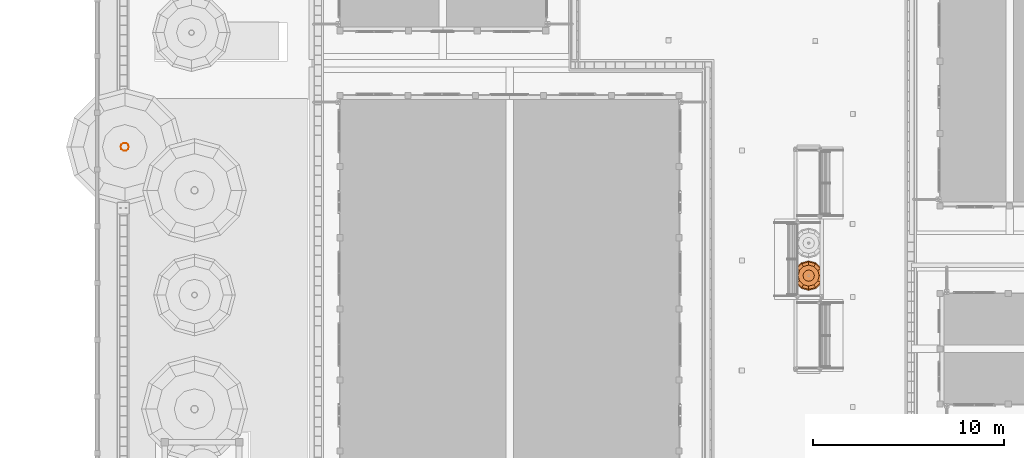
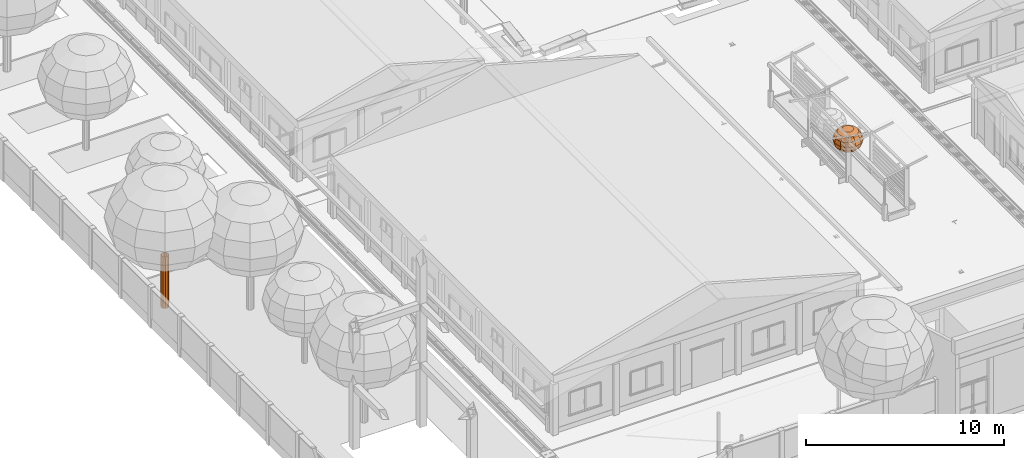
# One storey, part 150 of 166: 2 proxies.
"""IFC2X3 building model written with IfcOpenShell, lengths in metres."""

import ifcopenshell
import ifcopenshell.guid

model = None  # the IFC model being written
_history = None  # IfcOwnerHistory: only IFC2X3 demands one
_inside = {}  # id of a spatial element -> (the spatial element, [elements in it])
_under = {}  # id of a project, library or spatial element -> (it, [spatial elements below it])
_declared = {}  # id of a project -> (the project, [libraries it declares])
_typed = {}  # id of a type object -> (the type object, [elements of that type])
_made_of = {}  # id of a material, layer set ... -> (it, [elements and type objects made of it])


def new_model(schema):
    """Start an empty IFC model of exactly this schema.

    Asked for "IFC4X3", IfcOpenShell would pick the latest addendum, in which some entities
    have other attributes; the version numbers below select the first issue.
    IFC2X3 requires an IfcOwnerHistory on every rooted entity: one is made here for all.
    """
    global model, _history
    if schema == "IFC4X3":
        model = ifcopenshell.file(schema_version=(4, 3, 0, 0))
    else:
        model = ifcopenshell.file(schema=schema)
    _inside.clear()
    _under.clear()
    _declared.clear()
    _typed.clear()
    _made_of.clear()
    _history = None
    if model.schema == "IFC2X3":
        org = make("IfcOrganization", Name="unknown")
        user = make(
            "IfcPersonAndOrganization",
            ThePerson=make("IfcPerson", FamilyName="unknown"),
            TheOrganization=org,
        )
        app = make(
            "IfcApplication",
            ApplicationDeveloper=org,
            Version="unknown",
            ApplicationFullName="unknown",
            ApplicationIdentifier="unknown",
        )
        _history = make(
            "IfcOwnerHistory",
            OwningUser=user,
            OwningApplication=app,
            ChangeAction="ADDED",
            CreationDate=0,
        )
    return model


def make(cls, **values):
    """One entity of the class cls with the attributes given. An attribute that is None is left unset."""
    return model.create_entity(
        cls, **{name: value for name, value in values.items() if value is not None}
    )


def rooted(cls, **values):
    """An entity with a GlobalId (a new one), such as an element, a storey or a relation."""
    return make(cls, GlobalId=ifcopenshell.guid.new(), OwnerHistory=_history, **values)


def si_unit(unit_type, name, prefix=None):
    """IfcSIUnit, for example si_unit("LENGTHUNIT", "METRE", prefix="MILLI")."""
    return make("IfcSIUnit", UnitType=unit_type, Prefix=prefix, Name=name)


def assignment(units):
    """IfcUnitAssignment: the units of a project."""
    return None if units is None else make("IfcUnitAssignment", Units=units)


def point(xyz):
    """IfcCartesianPoint."""
    return None if xyz is None else make("IfcCartesianPoint", Coordinates=xyz)


def direction(xyz):
    """IfcDirection."""
    return None if xyz is None else make("IfcDirection", DirectionRatios=xyz)


def frame(location, z_axis=None, x_axis=None):
    """IfcAxis2Placement3D, a coordinate frame: its origin and axes. An axis left out is left unset."""
    return make(
        "IfcAxis2Placement3D",
        Location=point(location),
        Axis=direction(z_axis),
        RefDirection=direction(x_axis),
    )


def origin():
    """The frame at (0, 0, 0) with its axes left unset."""
    return frame((0.0, 0.0, 0.0))


def origin_with_axes():
    """The frame at (0, 0, 0) with the z axis (0, 0, 1) and the x axis (1, 0, 0) written out."""
    return frame((0.0, 0.0, 0.0), z_axis=(0.0, 0.0, 1.0), x_axis=(1.0, 0.0, 0.0))


def place(relative_to, where):
    """IfcLocalPlacement: puts the frame where relative to a parent placement (None: the world)."""
    return make(
        "IfcLocalPlacement", PlacementRelTo=relative_to, RelativePlacement=where
    )


def context(
    kind, dimensions, precision=None, world=None, true_north=None, identifier=None
):
    """IfcGeometricRepresentationContext, for example the 3D "Model" context."""
    return make(
        "IfcGeometricRepresentationContext",
        ContextIdentifier=identifier,
        ContextType=kind,
        CoordinateSpaceDimension=dimensions,
        Precision=precision,
        WorldCoordinateSystem=world,
        TrueNorth=true_north,
    )


def subcontext(parent, identifier, kind, view, scale=None):
    """IfcGeometricRepresentationSubContext, for example "Body" below "Model"."""
    return make(
        "IfcGeometricRepresentationSubContext",
        ContextIdentifier=identifier,
        ContextType=kind,
        ParentContext=parent,
        TargetScale=scale,
        TargetView=view,
    )


def project(units=None, contexts=None):
    """IfcProject with its units and contexts."""
    return rooted(
        "IfcProject",
        Name="project",
        RepresentationContexts=contexts,
        UnitsInContext=assignment(units),
    )


def spatial(cls, under=None, at=None, **own):
    """A site, building, storey or space (cls), placed at a placement, below another one or the project."""
    s = rooted(cls, ObjectPlacement=at, **own)
    if under is not None:
        _under.setdefault(under.id(), (under, []))[1].append(s)
    return s


def faces_of(points, faces, orient=None, outer=None):
    """IfcFace entities. A face is a list of loops; a loop is a list of indices into points, from 0.

    orient and outer hold one flag for each loop. By default every Orientation is true, the
    first loop of a face is its IfcFaceOuterBound and the others are IfcFaceBound.
    """
    made = []
    for i, loops in enumerate(faces):
        bounds = []
        for j, loop in enumerate(loops):
            is_outer = j == 0 if outer is None else outer[i][j]
            bounds.append(
                make(
                    "IfcFaceOuterBound" if is_outer else "IfcFaceBound",
                    Bound=make("IfcPolyLoop", Polygon=[points[k] for k in loop]),
                    Orientation=True if orient is None else orient[i][j],
                )
            )
        made.append(make("IfcFace", Bounds=bounds))
    return made


def faceted_brep(points, faces, orient=None, outer=None, voids=None):
    """IfcFacetedBrep: a solid bounded by flat faces; with voids (closed shells), ...WithVoids."""
    shared = [point(p) for p in points]
    hull = make("IfcClosedShell", CfsFaces=faces_of(shared, faces, orient, outer))
    if voids is None:
        return make("IfcFacetedBrep", Outer=hull)
    return make(
        "IfcFacetedBrepWithVoids",
        Outer=hull,
        Voids=[
            make(cls, CfsFaces=faces_of(shared, fs, o, b)) for cls, fs, o, b in voids
        ],
    )


def shape(context_of_items, identifier, shape_type, items):
    """IfcShapeRepresentation: the items that make up one representation, for example the "Body"."""
    return make(
        "IfcShapeRepresentation",
        ContextOfItems=context_of_items,
        RepresentationIdentifier=identifier,
        RepresentationType=shape_type,
        Items=items,
    )


def made_of(thing, what):
    """Note that an element or type object is made of a material, layer set ...; save() writes the relation."""
    if what is not None:
        _made_of.setdefault(what.id(), (what, []))[1].append(thing)
    return thing


def element(
    cls,
    number,
    at=None,
    inside=None,
    cuts=None,
    type_object=None,
    material=None,
    context=None,
    identifier="Body",
    shape_type=None,
    held_by="IfcProductDefinitionShape",
    body=None,
    shapes=None,
    **own,
):
    """One element of the class cls, such as IfcWall. Its Tag is "e" and its number.

    at: its placement. inside: the storey or other place that contains it. cuts: it is an
    opening in that element (IfcRelVoidsElement). A single representation is given by context,
    identifier, shape_type and body (its items); several are given by shapes. held_by: the class
    of the entity that holds the representations. save() writes the other relations.
    """
    e = rooted(cls, Tag="e%d" % number, ObjectPlacement=at, **own)
    if body is not None:
        shapes = [shape(context, identifier, shape_type, body)]
    if shapes is not None:
        e.Representation = make(held_by, Representations=shapes)
    if inside is not None:
        _inside.setdefault(inside.id(), (inside, []))[1].append(e)
    if cuts is not None:
        rooted(
            "IfcRelVoidsElement", RelatingBuildingElement=cuts, RelatedOpeningElement=e
        )
    if type_object is not None:
        _typed.setdefault(type_object.id(), (type_object, []))[1].append(e)
    return made_of(e, material)


def aggregate(whole, parts):
    """IfcRelAggregates: a whole, such as a stair, and the parts it consists of."""
    return rooted("IfcRelAggregates", RelatingObject=whole, RelatedObjects=parts)


def save(model, path):
    """Write the relations noted so far, then the file.

    IfcRelAggregates (storeys below a building ...), IfcRelContainedInSpatialStructure (elements
    in a storey), IfcRelDefinesByType, IfcRelAssociatesMaterial and IfcRelDeclares: one each for
    every whole, place, type object, material and project.
    """
    for whole, parts in _under.values():
        aggregate(whole, parts)
    for where, things in _inside.values():
        rooted(
            "IfcRelContainedInSpatialStructure",
            RelatedElements=things,
            RelatingStructure=where,
        )
    for kind, things in _typed.values():
        rooted("IfcRelDefinesByType", RelatedObjects=things, RelatingType=kind)
    for what, things in _made_of.values():
        rooted("IfcRelAssociatesMaterial", RelatedObjects=things, RelatingMaterial=what)
    for by, libraries in _declared.values():
        rooted("IfcRelDeclares", RelatingContext=by, RelatedDefinitions=libraries)
    model.write(path)


model = new_model("IFC2X3")

# Units and contexts
model_context = context("Model", 3, precision=1e-05, world=origin_with_axes())
body_context = subcontext(model_context, "Body", "Model", "MODEL_VIEW")
ifc_project = project(units=[si_unit("LENGTHUNIT", "METRE"), si_unit("AREAUNIT", "SQUARE_METRE"), si_unit("VOLUMEUNIT", "CUBIC_METRE"), si_unit("PLANEANGLEUNIT", "RADIAN")], contexts=[model_context])

# Site, building, storey
site_placement = place(None, origin_with_axes())
site = spatial("IfcSite", under=ifc_project, at=site_placement, Name="Predio Los Mangos - Morales, San Martín", CompositionType="ELEMENT")
building_placement = place(site_placement, origin())
building = spatial("IfcBuilding", under=site, at=building_placement, Name="Hogar de Refugio Temporal", CompositionType="ELEMENT")
storey_placement = place(building_placement, origin())
storey = spatial("IfcBuildingStorey", under=building, at=storey_placement, Name="NIVEL 1 (NPT +0.00)", CompositionType="ELEMENT", Elevation=0.0)

# Proxies
proxy_1_placement = place(storey_placement, origin())
element("IfcBuildingElementProxy", 1, at=proxy_1_placement, inside=storey, Name="arbol_tronco", ObjectType="Árbol", context=body_context, shape_type="Brep", body=[
    faceted_brep([(2.7132, 46.0, 0.0), (2.6725, 46.1253, 0.0), (2.6725, 46.1253, 3.1982), (2.5659, 46.2028, 0.0), (2.5659, 46.2028, 3.1982), (2.4341, 46.2028, 0.0), (2.4341, 46.2028, 3.1982), (2.3275, 46.1253, 0.0), (2.3275, 46.1253, 3.1982), (2.2868, 46.0, 0.0), (2.2868, 46.0, 3.1982), (2.3275, 45.8747, 0.0), (2.3275, 45.8747, 3.1982), (2.4341, 45.7972, 0.0), (2.4341, 45.7972, 3.1982), (2.5659, 45.7972, 0.0), (2.5659, 45.7972, 3.1982), (2.6725, 45.8747, 0.0), (2.6725, 45.8747, 3.1982), (2.7132, 46.0, 3.1982)], [[[0, 1, 2]], [[1, 3, 4]], [[3, 5, 6]], [[5, 7, 8]], [[7, 9, 10]], [[9, 11, 12]], [[11, 13, 14]], [[13, 15, 16]], [[15, 17, 18]], [[17, 0, 19]], [[0, 2, 19]], [[1, 4, 2]], [[3, 6, 4]], [[5, 8, 6]], [[7, 10, 8]], [[9, 12, 10]], [[11, 14, 12]], [[13, 16, 14]], [[15, 18, 16]], [[17, 19, 18]]]),
])
proxy_2_placement = place(storey_placement, origin())
element("IfcBuildingElementProxy", 2, at=proxy_2_placement, inside=storey, Name="arbol_copa", ObjectType="Árbol", context=body_context, shape_type="Brep", body=[
    faceted_brep([(38.4, 39.245, 2.5172), (38.4, 39.245, 2.5172), (38.6592, 39.3946, 2.4666), (38.6993, 39.245, 2.4666), (38.4, 39.245, 2.5172), (38.5496, 39.5042, 2.4666), (38.4, 39.245, 2.5172), (38.4, 39.5443, 2.4666), (38.4, 39.245, 2.5172), (38.2504, 39.5042, 2.4666), (38.4, 39.245, 2.5172), (38.1408, 39.3946, 2.4666), (38.4, 39.245, 2.5172), (38.1007, 39.245, 2.4666), (38.4, 39.245, 2.5172), (38.1408, 39.0954, 2.4666), (38.4, 39.245, 2.5172), (38.2504, 38.9858, 2.4666), (38.4, 39.245, 2.5172), (38.4, 38.9457, 2.4666), (38.4, 39.245, 2.5172), (38.5496, 38.9858, 2.4666), (38.4, 39.245, 2.5172), (38.6592, 39.0954, 2.4666), (38.8789, 39.5215, 2.3225), (38.953, 39.245, 2.3225), (38.6765, 39.7239, 2.3225), (38.4, 39.798, 2.3225), (38.1235, 39.7239, 2.3225), (37.9211, 39.5215, 2.3225), (37.847, 39.245, 2.3225), (37.9211, 38.9685, 2.3225), (38.1235, 38.7661, 2.3225), (38.4, 38.692, 2.3225), (38.6765, 38.7661, 2.3225), (38.8789, 38.9685, 2.3225), (39.0257, 39.6062, 2.1069), (39.1225, 39.245, 2.1069), (38.7612, 39.8707, 2.1069), (38.4, 39.9675, 2.1069), (38.0388, 39.8707, 2.1069), (37.7743, 39.6062, 2.1069), (37.6775, 39.245, 2.1069), (37.7743, 38.8838, 2.1069), (38.0388, 38.6193, 2.1069), (38.4, 38.5225, 2.1069), (38.7612, 38.6193, 2.1069), (39.0257, 38.8838, 2.1069), (39.0772, 39.636, 1.8525), (39.182, 39.245, 1.8525), (38.791, 39.9222, 1.8525), (38.4, 40.027, 1.8525), (38.009, 39.9222, 1.8525), (37.7228, 39.636, 1.8525), (37.618, 39.245, 1.8525), (37.7228, 38.854, 1.8525), (38.009, 38.5678, 1.8525), (38.4, 38.463, 1.8525), (38.791, 38.5678, 1.8525), (39.0772, 38.854, 1.8525), (39.0257, 39.6062, 1.5981), (39.1225, 39.245, 1.5981), (38.7612, 39.8707, 1.5981), (38.4, 39.9675, 1.5981), (38.0388, 39.8707, 1.5981), (37.7743, 39.6062, 1.5981), (37.6775, 39.245, 1.5981), (37.7743, 38.8838, 1.5981), (38.0388, 38.6193, 1.5981), (38.4, 38.5225, 1.5981), (38.7612, 38.6193, 1.5981), (39.0257, 38.8838, 1.5981), (38.8789, 39.5215, 1.3825), (38.953, 39.245, 1.3825), (38.6765, 39.7239, 1.3825), (38.4, 39.798, 1.3825), (38.1235, 39.7239, 1.3825), (37.9211, 39.5215, 1.3825), (37.847, 39.245, 1.3825), (37.9211, 38.9685, 1.3825), (38.1235, 38.7661, 1.3825), (38.4, 38.692, 1.3825), (38.6765, 38.7661, 1.3825), (38.8789, 38.9685, 1.3825), (38.6592, 39.3946, 1.2384), (38.6993, 39.245, 1.2384), (38.5496, 39.5042, 1.2384), (38.4, 39.5443, 1.2384), (38.2504, 39.5042, 1.2384), (38.1408, 39.3946, 1.2384), (38.1007, 39.245, 1.2384), (38.1408, 39.0954, 1.2384), (38.2504, 38.9858, 1.2384), (38.4, 38.9457, 1.2384), (38.5496, 38.9858, 1.2384), (38.6592, 39.0954, 1.2384), (38.4, 39.245, 1.1878), (38.4, 39.245, 1.1878), (38.4, 39.245, 1.1878), (38.4, 39.245, 1.1878), (38.4, 39.245, 1.1878), (38.4, 39.245, 1.1878), (38.4, 39.245, 1.1878), (38.4, 39.245, 1.1878), (38.4, 39.245, 1.1878), (38.4, 39.245, 1.1878), (38.4, 39.245, 1.1878), (38.4, 39.245, 1.1878)], [[[0, 1, 2]], [[0, 2, 3]], [[1, 4, 5]], [[1, 5, 2]], [[4, 6, 7]], [[4, 7, 5]], [[6, 8, 9]], [[6, 9, 7]], [[8, 10, 11]], [[8, 11, 9]], [[10, 12, 13]], [[10, 13, 11]], [[12, 14, 15]], [[12, 15, 13]], [[14, 16, 17]], [[14, 17, 15]], [[16, 18, 19]], [[16, 19, 17]], [[18, 20, 21]], [[18, 21, 19]], [[20, 22, 23]], [[20, 23, 21]], [[22, 0, 3]], [[22, 3, 23]], [[3, 2, 24]], [[3, 24, 25]], [[2, 5, 26]], [[2, 26, 24]], [[5, 7, 27]], [[5, 27, 26]], [[7, 9, 28]], [[7, 28, 27]], [[9, 11, 29]], [[9, 29, 28]], [[11, 13, 30]], [[11, 30, 29]], [[13, 15, 31]], [[13, 31, 30]], [[15, 17, 32]], [[15, 32, 31]], [[17, 19, 33]], [[17, 33, 32]], [[19, 21, 34]], [[19, 34, 33]], [[21, 23, 35]], [[21, 35, 34]], [[23, 3, 25]], [[23, 25, 35]], [[25, 24, 36]], [[25, 36, 37]], [[24, 26, 38]], [[24, 38, 36]], [[26, 27, 39]], [[26, 39, 38]], [[27, 28, 40]], [[27, 40, 39]], [[28, 29, 41]], [[28, 41, 40]], [[29, 30, 42]], [[29, 42, 41]], [[30, 31, 43]], [[30, 43, 42]], [[31, 32, 44]], [[31, 44, 43]], [[32, 33, 45]], [[32, 45, 44]], [[33, 34, 46]], [[33, 46, 45]], [[34, 35, 47]], [[34, 47, 46]], [[35, 25, 37]], [[35, 37, 47]], [[37, 36, 48]], [[37, 48, 49]], [[36, 38, 50]], [[36, 50, 48]], [[38, 39, 51]], [[38, 51, 50]], [[39, 40, 52]], [[39, 52, 51]], [[40, 41, 53]], [[40, 53, 52]], [[41, 42, 54]], [[41, 54, 53]], [[42, 43, 55]], [[42, 55, 54]], [[43, 44, 56]], [[43, 56, 55]], [[44, 45, 57]], [[44, 57, 56]], [[45, 46, 58]], [[45, 58, 57]], [[46, 47, 59]], [[46, 59, 58]], [[47, 37, 49]], [[47, 49, 59]], [[49, 48, 60]], [[49, 60, 61]], [[48, 50, 62]], [[48, 62, 60]], [[50, 51, 63]], [[50, 63, 62]], [[51, 52, 64]], [[51, 64, 63]], [[52, 53, 65]], [[52, 65, 64]], [[53, 54, 66]], [[53, 66, 65]], [[54, 55, 67]], [[54, 67, 66]], [[55, 56, 68]], [[55, 68, 67]], [[56, 57, 69]], [[56, 69, 68]], [[57, 58, 70]], [[57, 70, 69]], [[58, 59, 71]], [[58, 71, 70]], [[59, 49, 61]], [[59, 61, 71]], [[61, 60, 72]], [[61, 72, 73]], [[60, 62, 74]], [[60, 74, 72]], [[62, 63, 75]], [[62, 75, 74]], [[63, 64, 76]], [[63, 76, 75]], [[64, 65, 77]], [[64, 77, 76]], [[65, 66, 78]], [[65, 78, 77]], [[66, 67, 79]], [[66, 79, 78]], [[67, 68, 80]], [[67, 80, 79]], [[68, 69, 81]], [[68, 81, 80]], [[69, 70, 82]], [[69, 82, 81]], [[70, 71, 83]], [[70, 83, 82]], [[71, 61, 73]], [[71, 73, 83]], [[73, 72, 84]], [[73, 84, 85]], [[72, 74, 86]], [[72, 86, 84]], [[74, 75, 87]], [[74, 87, 86]], [[75, 76, 88]], [[75, 88, 87]], [[76, 77, 89]], [[76, 89, 88]], [[77, 78, 90]], [[77, 90, 89]], [[78, 79, 91]], [[78, 91, 90]], [[79, 80, 92]], [[79, 92, 91]], [[80, 81, 93]], [[80, 93, 92]], [[81, 82, 94]], [[81, 94, 93]], [[82, 83, 95]], [[82, 95, 94]], [[83, 73, 85]], [[83, 85, 95]], [[85, 84, 96]], [[85, 96, 97]], [[84, 86, 98]], [[84, 98, 96]], [[86, 87, 99]], [[86, 99, 98]], [[87, 88, 100]], [[87, 100, 99]], [[88, 89, 101]], [[88, 101, 100]], [[89, 90, 102]], [[89, 102, 101]], [[90, 91, 103]], [[90, 103, 102]], [[91, 92, 104]], [[91, 104, 103]], [[92, 93, 105]], [[92, 105, 104]], [[93, 94, 106]], [[93, 106, 105]], [[94, 95, 107]], [[94, 107, 106]], [[95, 85, 97]], [[95, 97, 107]]]),
])

save(model, "model.ifc")
